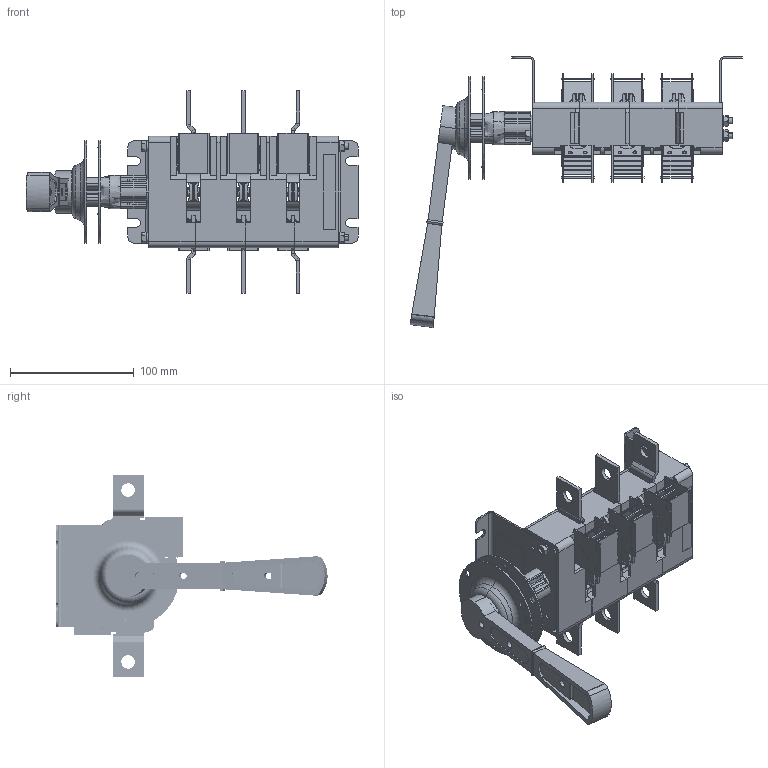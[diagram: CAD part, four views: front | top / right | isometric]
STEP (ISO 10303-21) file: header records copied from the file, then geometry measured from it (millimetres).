
FILE_DESCRIPTION (( 'STEP AP214' ), '1' );
FILE_NAME ('ﾂﾐ32-35 ﾃﾆﾈﾊ.642523.007-01 (ﾂ31250-250ﾀ-ﾋ).STEP', '2023-04-18T12:48:07', ( '' ), ( '' ), 'SwSTEP 2.0', 'SolidWorks 2018', '' );
FILE_SCHEMA (( 'AUTOMOTIVE_DESIGN' ));
Length unit declared in the file: millimetre
Products named in the file (40): ﾂ鏆鮏 ﾃﾆﾈﾊ.745485.004_-00; 暑痫篑 镳噔 闷仁.735384.042; Ðóêîÿòêà ÃÆÈÊ.303658.010; Ïëàñòèíà óïðàâëåíèÿ; Êîíòàêò ïîäâèæíûé ÃÆÈÊ.685179.144_-01 (¤«ï á¡®ª¨); Êàìåðà äóãîãàñèòåëüíàÿ ÃÆÈÊ.686431.024_-01 (¤«ï á¡®àª¨); ﾂ鏆鮏 ﾃﾆﾈﾊ.745485.003; ﾘ琺矜 ﾃﾆﾈﾊ.758491.056; Ñêîáà_250À(ðåàëüíî)_-01; Èñêðîãàñèòåëü250À_ÑÁ_-01 (¤«ï á¡®àª¨); Ïðóæèíà ôèêñàòîðà_250À_-01 (®âª«îç¥­®); Êîðïóñ ñðåäíèé  ÃÆÈÊ.735384.043; 抔樖罻; Áîêîâèíà ïðàâàÿ ÃÆÈÊ.735224.024; Êîíòàêò ïîäâèæíûé_250À; 噪囗弼 闷仁.712378.001; 婰膲僗闉_005; 锐牮钽囫栩咫黖250A; ﾘ琺矜 5 65ﾃ 016; 想囫蜩磬_-01 (帷獱); Øïèëüêà Ì5 ÃÆÈÊ.758292.004; ﾘ琺矜 D32; Êîðïóñ  ëåâûé ÃÆÈÊ.735384.044; Áîêîâèíà ëåâàÿ ÃÆÈÊ.735224.025; Ñòåíêà_250À; Îñü; Ïðóæèíà_250À_-01(¤«ï á¡®àª¨); 砑僔蠂縺_250; ﾂﾐ32-35 ﾃﾆﾈﾊ.642523.007-01 (ﾂ31250-250ﾀ-ﾋ); ﾎﾁﾎﾋﾎﾗﾊﾀ_ﾍ; Òàáëè÷êà äëÿ ñáîðêè ÷èñòàÿ áîëüøàÿ; 买箅赅 闷仁.713141.009; Èñêðîãàñèòåëü_250A_-01(®â¢¥àáâ¨ï); 砑僔蠂縺_009; ﾘ琺矜 D15; Ãàéêà Ì5-6Í.5.016; 澡犟囹铕 闷仁.745484.003; ﾂ鏆鮏 ﾃﾆﾈﾊ.745485.004_-01; Âàë ÃÆÈÊ.715274.002_-01 (¤«ï á¡®àª¨); Òàáëè÷êà äëÿ ñáîðêè ÷èñòàÿ
Assembly tree (70 placements, depth 4):
  ﾂﾐ32-35 ﾃﾆﾈﾊ.642523.007-01 (ﾂ31250-250ﾀ-ﾋ)
    Âàë ÃÆÈÊ.715274.002_-01 (¤«ï á¡®àª¨)
    Êîíòàêò ïîäâèæíûé ÃÆÈÊ.685179.144_-01 (¤«ï á¡®ª¨)  x3
      Îñü
      砑僔蠂縺_009
      Êîíòàêò ïîäâèæíûé_250À
      婰膲僗闉_005
      Ïðóæèíà_250À_-01(¤«ï á¡®àª¨)
    Êîðïóñ  ëåâûé ÃÆÈÊ.735384.044
    Êîðïóñ ñðåäíèé  ÃÆÈÊ.735384.043  x2
    暑痫篑 镳噔 闷仁.735384.042
    Áîêîâèíà ïðàâàÿ ÃÆÈÊ.735224.024
    Áîêîâèíà ëåâàÿ ÃÆÈÊ.735224.025
    Øïèëüêà Ì5 ÃÆÈÊ.758292.004  x2
    Ãàéêà Ì5-6Í.5.016  x4
    ﾘ琺矜 5 65ﾃ 016  x4
    澡犟囹铕 闷仁.745484.003  x2
    Ïðóæèíà ôèêñàòîðà_250À_-01 (®âª«îç¥­®)  x2
    买箅赅 闷仁.713141.009
    Êàìåðà äóãîãàñèòåëüíàÿ ÃÆÈÊ.686431.024_-01 (¤«ï á¡®àª¨)  x6
      Ñòåíêà_250À
      砑僔蠂縺_250
      锐牮钽囫栩咫黖250A
      Èñêðîãàñèòåëü250À_ÑÁ_-01 (¤«ï á¡®àª¨)
        Ñêîáà_250À(ðåàëüíî)_-01
        抔樖罻  x2
        Èñêðîãàñèòåëü_250A_-01(®â¢¥àáâ¨ï)
    Ðóêîÿòêà ÃÆÈÊ.303658.010
      ﾘ琺矜 D32
      ﾘ琺矜 D15
      Ïëàñòèíà óïðàâëåíèÿ
      想囫蜩磬_-01 (帷獱)
      ﾎﾁﾎﾋﾎﾗﾊﾀ_ﾍ
    ﾘ琺矜 ﾃﾆﾈﾊ.758491.056
    噪囗弼 闷仁.712378.001
    ﾂ鏆鮏 ﾃﾆﾈﾊ.745485.003  x2
    ﾂ鏆鮏 ﾃﾆﾈﾊ.745485.004_-00  x2
    ﾂ鏆鮏 ﾃﾆﾈﾊ.745485.004_-01  x2
    Òàáëè÷êà äëÿ ñáîðêè ÷èñòàÿ
    Òàáëè÷êà äëÿ ñáîðêè ÷èñòàÿ áîëüøàÿ
Bounding box: 268.56 x 219.38 x 164 mm (x, y, z)
Volume: 461517 mm3; surface area: 367630.1 mm2
Topology: 137 solids, 137 shells, 4643 faces, 12173 edges, 7895 vertices
Faces by surface type: plane 3249, cylinder 1094, bspline 140, cone 76, sphere 54, torus 30
Entity records: 121368 total; most frequent: CARTESIAN_POINT 80727, ORIENTED_EDGE 8140, DIRECTION 8060, EDGE_CURVE 4070, AXIS2_PLACEMENT_3D 2740, VERTEX_POINT 2657, LINE 2580, VECTOR 2580
